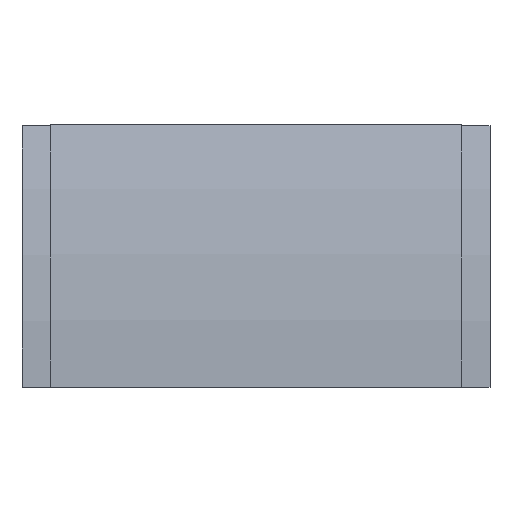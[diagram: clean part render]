
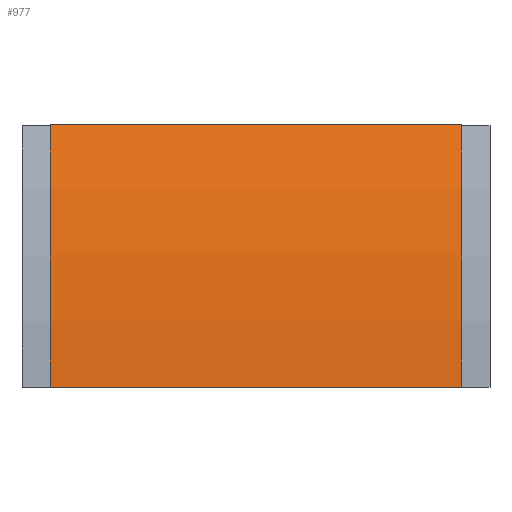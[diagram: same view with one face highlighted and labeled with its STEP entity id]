
A CAD part, front view. The second image highlights one B-rep face of the part: STEP entity #977.
In plain terms, the highlighted cylindrical face has radius 568 mm (diameter 1136 mm), a partial arc.
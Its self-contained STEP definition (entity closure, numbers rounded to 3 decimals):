
#3 = VERTEX_POINT ( 'NONE', #172 ) ;
#9 = VERTEX_POINT ( 'NONE', #175 ) ;
#21 = VERTEX_POINT ( 'NONE', #186 ) ;
#32 = VERTEX_POINT ( 'NONE', #151 ) ;
#76 = EDGE_LOOP ( 'NONE', ( #937, #612, #647, #944 ) ) ;
#151 = CARTESIAN_POINT ( 'NONE',  ( -152., -68., 0. ) ) ;
#172 = CARTESIAN_POINT ( 'NONE',  ( -152., -33.745, 194.267 ) ) ;
#175 = CARTESIAN_POINT ( 'NONE',  ( 152., -33.745, 194.267 ) ) ;
#186 = CARTESIAN_POINT ( 'NONE',  ( 152., -68., 0. ) ) ;
#234 = DIRECTION ( 'NONE',  ( 1., 0., 0. ) ) ;
#239 = CARTESIAN_POINT ( 'NONE',  ( -152., -68., 0. ) ) ;
#241 = DIRECTION ( 'NONE',  ( 0., 0., -1. ) ) ;
#244 = DIRECTION ( 'NONE',  ( 1., 0., 0. ) ) ;
#251 = CARTESIAN_POINT ( 'NONE',  ( 152., 500., 0. ) ) ;
#252 = CARTESIAN_POINT ( 'NONE',  ( -152., -33.745, 194.267 ) ) ;
#283 = DIRECTION ( 'NONE',  ( 0., 0., -1. ) ) ;
#289 = CARTESIAN_POINT ( 'NONE',  ( 0., 500., 0. ) ) ;
#290 = AXIS2_PLACEMENT_3D ( 'NONE', #289, #297, #296 ) ;
#291 = DIRECTION ( 'NONE',  ( 1., 0., 0. ) ) ;
#294 = CARTESIAN_POINT ( 'NONE',  ( -152., 500., 0. ) ) ;
#296 = DIRECTION ( 'NONE',  ( 0., 0., -1. ) ) ;
#297 = DIRECTION ( 'NONE',  ( 1., 0., 0. ) ) ;
#308 = DIRECTION ( 'NONE',  ( 1., 0., 0. ) ) ;
#376 = AXIS2_PLACEMENT_3D ( 'NONE', #251, #244, #241 ) ;
#379 = AXIS2_PLACEMENT_3D ( 'NONE', #294, #291, #283 ) ;
#445 = EDGE_CURVE ( 'NONE', #3, #32, #717, .T. ) ;
#451 = EDGE_CURVE ( 'NONE', #9, #21, #828, .T. ) ;
#453 = EDGE_CURVE ( 'NONE', #3, #9, #709, .T. ) ;
#454 = EDGE_CURVE ( 'NONE', #32, #21, #816, .T. ) ;
#612 = ORIENTED_EDGE ( 'NONE', *, *, #453, .F. ) ;
#647 = ORIENTED_EDGE ( 'NONE', *, *, #445, .T. ) ;
#653 = FACE_OUTER_BOUND ( 'NONE', #76, .T. ) ;
#709 = LINE ( 'NONE', #252, #812 ) ;
#717 = CIRCLE ( 'NONE', #379, 568. ) ;
#748 = CYLINDRICAL_SURFACE ( 'NONE', #290, 568. ) ;
#803 = VECTOR ( 'NONE', #234, 1000. ) ;
#812 = VECTOR ( 'NONE', #308, 1000. ) ;
#816 = LINE ( 'NONE', #239, #803 ) ;
#828 = CIRCLE ( 'NONE', #376, 568. ) ;
#937 = ORIENTED_EDGE ( 'NONE', *, *, #451, .F. ) ;
#944 = ORIENTED_EDGE ( 'NONE', *, *, #454, .T. ) ;
#977 = ADVANCED_FACE ( 'NONE', ( #653 ), #748, .T. ) ;
